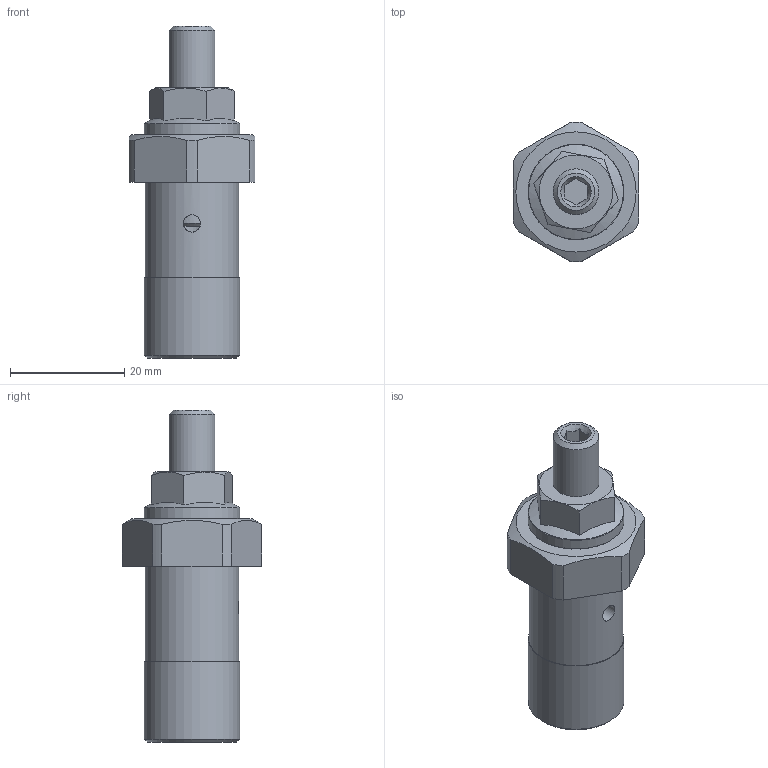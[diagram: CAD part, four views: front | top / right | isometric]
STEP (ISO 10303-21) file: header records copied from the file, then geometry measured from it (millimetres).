
FILE_DESCRIPTION(/* description */ ('Unknown'),/* implementation_level */ '2;1');
FILE_NAME(/* name */ 'VIFOR38',/* time_stamp */ '2024-12-05T10:44:36+01:00',/* author */ ('Unknown'),/* organization */ ('Unknown'),/* preprocessor_version */ 'ST-DEVELOPER v19.4',/* originating_system */ 'Solid Edge',/* authorisation */ 'Unknown');
FILE_SCHEMA (('AUTOMOTIVE_DESIGN {1 0 10303 214 3 1 1}'));
Length unit declared in the file: millimetre
Products named in the file (1): VIFOR38
Bounding box: 22 x 24.39 x 58 mm (x, y, z)
Volume: 10994.5 mm3; surface area: 4218.5 mm2
Topology: 1 solids, 1 shells, 50 faces, 126 edges, 83 vertices
Faces by surface type: plane 26, cylinder 14, cone 8, torus 2
Full cylindrical faces by diameter (mm): 3 x1, 6.647 x2, 8 x1, 16.4 x1, 16.662 x1, 16.72 x1
Entity records: 1785 total; most frequent: CARTESIAN_POINT 360, DIRECTION 206, ORIENTED_EDGE 200, EDGE_CURVE 100, AXIS2_PLACEMENT_3D 84, VERTEX_POINT 73, EDGE_LOOP 73, FACE_BOUND 73
